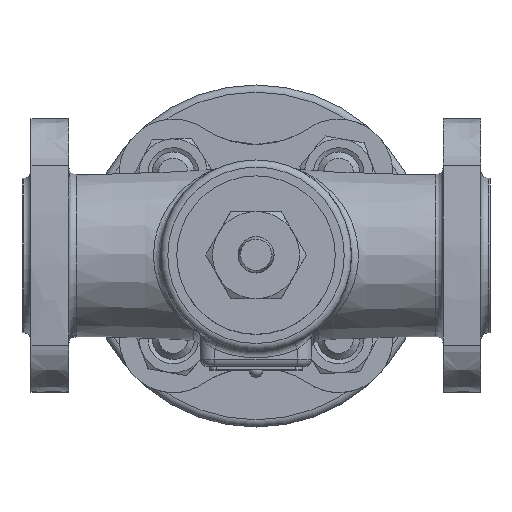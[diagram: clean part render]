
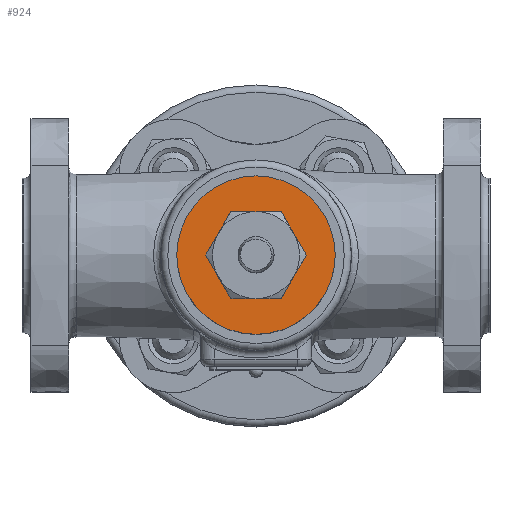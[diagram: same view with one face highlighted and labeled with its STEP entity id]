
A CAD part, top view. The second image highlights one B-rep face of the part: STEP entity #924.
In plain terms, the highlighted planar face has unit normal (0, 0, 1).
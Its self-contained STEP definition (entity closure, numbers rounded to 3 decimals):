
#924=ADVANCED_FACE('',(#1596,#1597),#1239,.F.);
#1239=PLANE('',#4840);
#1596=FACE_BOUND('',#1809,.T.);
#1597=FACE_BOUND('',#1810,.T.);
#1809=EDGE_LOOP('',(#2302,#2303));
#1810=EDGE_LOOP('',(#2304,#2305));
#2302=ORIENTED_EDGE('',*,*,#3984,.F.);
#2303=ORIENTED_EDGE('',*,*,#3985,.F.);
#2304=ORIENTED_EDGE('',*,*,#3986,.T.);
#2305=ORIENTED_EDGE('',*,*,#3987,.T.);
#3566=VERTEX_POINT('',#7084);
#3567=VERTEX_POINT('',#7085);
#3568=VERTEX_POINT('',#7088);
#3569=VERTEX_POINT('',#7089);
#3984=EDGE_CURVE('',#3566,#3567,#4576,.T.);
#3985=EDGE_CURVE('',#3567,#3566,#4577,.T.);
#3986=EDGE_CURVE('',#3568,#3569,#4578,.T.);
#3987=EDGE_CURVE('',#3569,#3568,#4579,.T.);
#4576=CIRCLE('',#4836,22.);
#4577=CIRCLE('',#4837,22.);
#4578=CIRCLE('',#4838,12.093);
#4579=CIRCLE('',#4839,12.093);
#4836=AXIS2_PLACEMENT_3D('',#7083,#5426,#5427);
#4837=AXIS2_PLACEMENT_3D('',#7086,#5428,#5429);
#4838=AXIS2_PLACEMENT_3D('',#7087,#5430,#5431);
#4839=AXIS2_PLACEMENT_3D('',#7090,#5432,#5433);
#4840=AXIS2_PLACEMENT_3D('',#7091,#5434,#5435);
#5426=DIRECTION('',(0.,0.,-1.));
#5427=DIRECTION('',(-1.,0.,0.));
#5428=DIRECTION('',(0.,0.,-1.));
#5429=DIRECTION('',(-1.,0.,0.));
#5430=DIRECTION('',(0.,0.,-1.));
#5431=DIRECTION('',(0.,-1.,0.));
#5432=DIRECTION('',(0.,0.,-1.));
#5433=DIRECTION('',(0.,-1.,0.));
#5434=DIRECTION('',(0.,0.,-1.));
#5435=DIRECTION('',(0.,1.,0.));
#7083=CARTESIAN_POINT('',(190.,0.,71.));
#7084=CARTESIAN_POINT('',(168.,0.,71.));
#7085=CARTESIAN_POINT('',(212.,0.,71.));
#7086=CARTESIAN_POINT('',(190.,0.,71.));
#7087=CARTESIAN_POINT('',(190.,0.,71.));
#7088=CARTESIAN_POINT('',(190.,12.093,71.));
#7089=CARTESIAN_POINT('',(190.,-12.093,71.));
#7090=CARTESIAN_POINT('',(190.,0.,71.));
#7091=CARTESIAN_POINT('',(190.,0.,71.));
